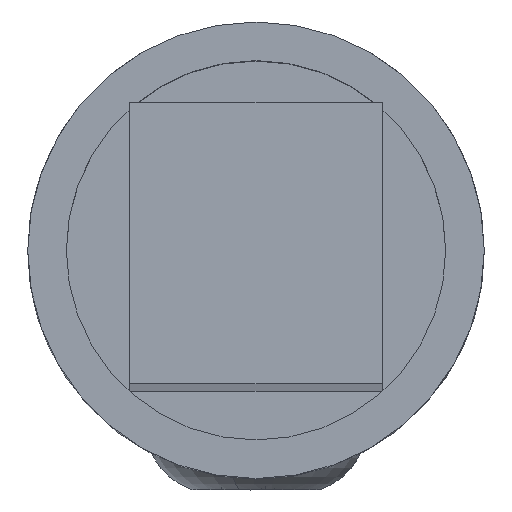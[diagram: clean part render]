
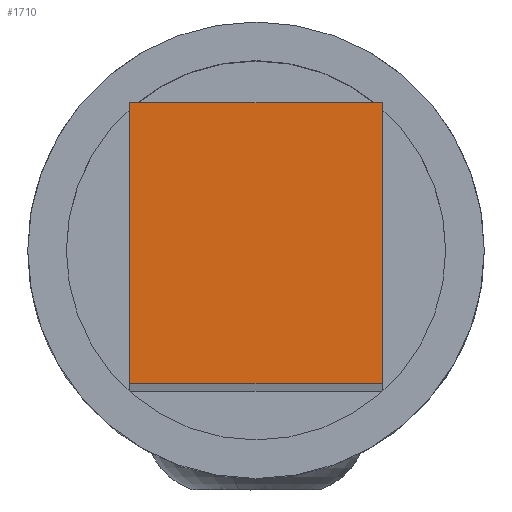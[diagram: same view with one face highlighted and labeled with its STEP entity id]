
A CAD part, top view. The second image highlights one B-rep face of the part: STEP entity #1710.
In plain terms, the highlighted planar face has unit normal (0, 0, 1).
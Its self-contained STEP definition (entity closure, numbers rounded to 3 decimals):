
#50 = VERTEX_POINT ( 'NONE', #1697 ) ;
#114 = DIRECTION ( 'NONE',  ( 1., 0., 0. ) ) ;
#227 = LINE ( 'NONE', #1911, #1358 ) ;
#237 = LINE ( 'NONE', #1729, #1365 ) ;
#239 = CARTESIAN_POINT ( 'NONE',  ( 1.8, 2., 60. ) ) ;
#586 = DIRECTION ( 'NONE',  ( 1., 0., 0. ) ) ;
#590 = CARTESIAN_POINT ( 'NONE',  ( -1.8, 2., 60. ) ) ;
#682 = EDGE_CURVE ( 'NONE', #1606, #866, #1289, .T. ) ;
#814 = DIRECTION ( 'NONE',  ( 0., 1., 0. ) ) ;
#822 = EDGE_LOOP ( 'NONE', ( #1912, #1192, #1761, #934 ) ) ;
#866 = VERTEX_POINT ( 'NONE', #590 ) ;
#869 = VECTOR ( 'NONE', #586, 1000. ) ;
#919 = LINE ( 'NONE', #1325, #869 ) ;
#934 = ORIENTED_EDGE ( 'NONE', *, *, #1866, .T. ) ;
#1000 = DIRECTION ( 'NONE',  ( 0., 0., 1. ) ) ;
#1012 = EDGE_CURVE ( 'NONE', #866, #1867, #237, .T. ) ;
#1076 = AXIS2_PLACEMENT_3D ( 'NONE', #1430, #1000, #114 ) ;
#1180 = CARTESIAN_POINT ( 'NONE',  ( -1.8, -2., 60. ) ) ;
#1192 = ORIENTED_EDGE ( 'NONE', *, *, #682, .T. ) ;
#1289 = LINE ( 'NONE', #1634, #1719 ) ;
#1325 = CARTESIAN_POINT ( 'NONE',  ( -1.8, -2., 60. ) ) ;
#1358 = VECTOR ( 'NONE', #814, 1000. ) ;
#1362 = DIRECTION ( 'NONE',  ( -1., 0., 0. ) ) ;
#1365 = VECTOR ( 'NONE', #1739, 1000. ) ;
#1401 = EDGE_CURVE ( 'NONE', #50, #1606, #227, .T. ) ;
#1430 = CARTESIAN_POINT ( 'NONE',  ( 1.8, -2., 60. ) ) ;
#1576 = FACE_OUTER_BOUND ( 'NONE', #822, .T. ) ;
#1606 = VERTEX_POINT ( 'NONE', #239 ) ;
#1634 = CARTESIAN_POINT ( 'NONE',  ( 1.8, 2., 60. ) ) ;
#1697 = CARTESIAN_POINT ( 'NONE',  ( 1.8, -2., 60. ) ) ;
#1710 = ADVANCED_FACE ( 'NONE', ( #1576 ), #1864, .T. ) ;
#1719 = VECTOR ( 'NONE', #1362, 1000. ) ;
#1729 = CARTESIAN_POINT ( 'NONE',  ( -1.8, 2., 60. ) ) ;
#1739 = DIRECTION ( 'NONE',  ( 0., -1., 0. ) ) ;
#1761 = ORIENTED_EDGE ( 'NONE', *, *, #1012, .T. ) ;
#1864 = PLANE ( 'NONE',  #1076 ) ;
#1866 = EDGE_CURVE ( 'NONE', #1867, #50, #919, .T. ) ;
#1867 = VERTEX_POINT ( 'NONE', #1180 ) ;
#1911 = CARTESIAN_POINT ( 'NONE',  ( 1.8, 2., 60. ) ) ;
#1912 = ORIENTED_EDGE ( 'NONE', *, *, #1401, .T. ) ;
